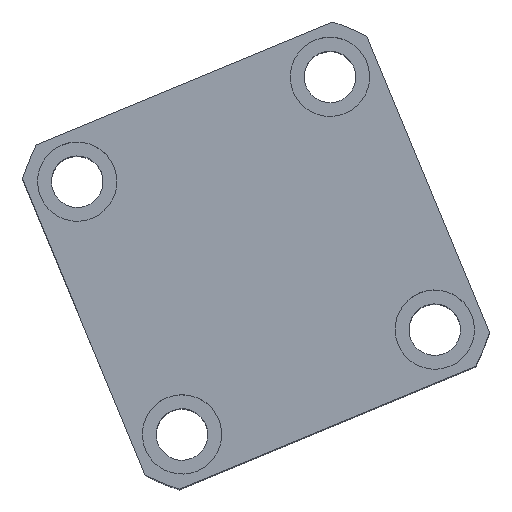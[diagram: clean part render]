
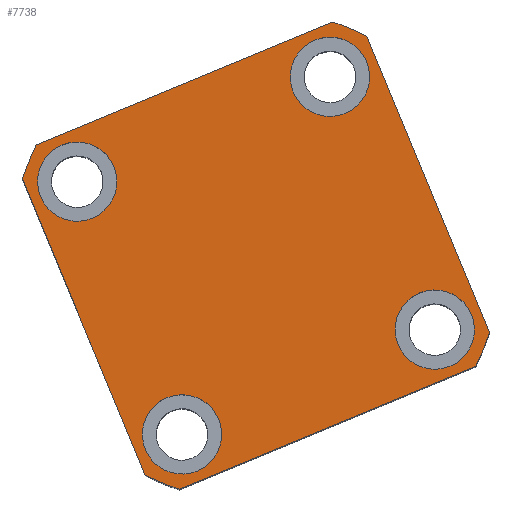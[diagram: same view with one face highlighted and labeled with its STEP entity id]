
A CAD part, top view. The second image highlights one B-rep face of the part: STEP entity #7738.
In plain terms, the highlighted planar face has unit normal (0, 0, 1) as drawn and (0, 0, -1) by its records, which use the part's own axes.
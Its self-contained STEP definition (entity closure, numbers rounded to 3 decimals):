
#434 = DIRECTION ( 'NONE',  ( 0., 0., 1. ) ) ;
#524 = ORIENTED_EDGE ( 'NONE', *, *, #7122, .F. ) ;
#832 = CIRCLE ( 'NONE', #15865, 62. ) ;
#986 = DIRECTION ( 'NONE',  ( 0., -1., 0. ) ) ;
#1189 = LINE ( 'NONE', #17088, #11239 ) ;
#1219 = EDGE_LOOP ( 'NONE', ( #14620, #16579 ) ) ;
#1233 = VECTOR ( 'NONE', #15411, 1000. ) ;
#1245 = CARTESIAN_POINT ( 'NONE',  ( 34.5, 34.5, 0. ) ) ;
#1440 = CIRCLE ( 'NONE', #13545, 10. ) ;
#1504 = EDGE_CURVE ( 'NONE', #8431, #13362, #12765, .T. ) ;
#1578 = ORIENTED_EDGE ( 'NONE', *, *, #1504, .F. ) ;
#1623 = CARTESIAN_POINT ( 'NONE',  ( -34.5, -34.5, 0. ) ) ;
#1679 = CIRCLE ( 'NONE', #10385, 10. ) ;
#1725 = ORIENTED_EDGE ( 'NONE', *, *, #14510, .F. ) ;
#2090 = VERTEX_POINT ( 'NONE', #13240 ) ;
#2092 = DIRECTION ( 'NONE',  ( 0., 0., 1. ) ) ;
#2535 = CARTESIAN_POINT ( 'NONE',  ( 0., 0., 0. ) ) ;
#2625 = DIRECTION ( 'NONE',  ( -1., 0., 0. ) ) ;
#2641 = EDGE_CURVE ( 'NONE', #11904, #3758, #6559, .T. ) ;
#2789 = CARTESIAN_POINT ( 'NONE',  ( 34.5, -34.5, 0. ) ) ;
#2866 = AXIS2_PLACEMENT_3D ( 'NONE', #2535, #12078, #3903 ) ;
#3012 = DIRECTION ( 'NONE',  ( -1., 0., 0. ) ) ;
#3043 = EDGE_CURVE ( 'NONE', #13603, #9117, #1189, .T. ) ;
#3174 = CIRCLE ( 'NONE', #5139, 10. ) ;
#3251 = ORIENTED_EDGE ( 'NONE', *, *, #17462, .F. ) ;
#3468 = CARTESIAN_POINT ( 'NONE',  ( 24.5, -34.5, 0. ) ) ;
#3548 = DIRECTION ( 'NONE',  ( 0., 0., -1. ) ) ;
#3758 = VERTEX_POINT ( 'NONE', #16729 ) ;
#3837 = CARTESIAN_POINT ( 'NONE',  ( 34.5, -34.5, 0. ) ) ;
#3848 = CIRCLE ( 'NONE', #12559, 10. ) ;
#3903 = DIRECTION ( 'NONE',  ( 1., 0., 0. ) ) ;
#4035 = VECTOR ( 'NONE', #986, 1000. ) ;
#4072 = AXIS2_PLACEMENT_3D ( 'NONE', #3837, #13370, #5195 ) ;
#4158 = DIRECTION ( 'NONE',  ( -1., 0., 0. ) ) ;
#4306 = CARTESIAN_POINT ( 'NONE',  ( -34.5, 34.5, 0. ) ) ;
#4397 = VERTEX_POINT ( 'NONE', #15566 ) ;
#4489 = FACE_BOUND ( 'NONE', #10815, .T. ) ;
#4547 = PLANE ( 'NONE',  #14942 ) ;
#4895 = LINE ( 'NONE', #5868, #1233 ) ;
#4914 = FACE_BOUND ( 'NONE', #1219, .T. ) ;
#5033 = EDGE_LOOP ( 'NONE', ( #14883, #8960 ) ) ;
#5060 = EDGE_CURVE ( 'NONE', #13362, #8431, #10558, .T. ) ;
#5109 = VERTEX_POINT ( 'NONE', #14739 ) ;
#5139 = AXIS2_PLACEMENT_3D ( 'NONE', #1245, #10797, #2625 ) ;
#5195 = DIRECTION ( 'NONE',  ( -1., 0., 0. ) ) ;
#5512 = CARTESIAN_POINT ( 'NONE',  ( -34.5, -34.5, 0. ) ) ;
#5673 = DIRECTION ( 'NONE',  ( -1., 0., 0. ) ) ;
#5868 = CARTESIAN_POINT ( 'NONE',  ( 47., 47., 0. ) ) ;
#5927 = DIRECTION ( 'NONE',  ( 1., 0., 0. ) ) ;
#6311 = CARTESIAN_POINT ( 'NONE',  ( -34.5, 34.5, 0. ) ) ;
#6541 = CARTESIAN_POINT ( 'NONE',  ( 0., 0., 0. ) ) ;
#6559 = CIRCLE ( 'NONE', #14722, 10. ) ;
#6682 = DIRECTION ( 'NONE',  ( 0., 0., -1. ) ) ;
#6791 = EDGE_CURVE ( 'NONE', #3758, #11904, #12840, .T. ) ;
#6891 = CARTESIAN_POINT ( 'NONE',  ( 44.5, 34.5, 0. ) ) ;
#6900 = EDGE_CURVE ( 'NONE', #12059, #11554, #8792, .T. ) ;
#6947 = ORIENTED_EDGE ( 'NONE', *, *, #3043, .F. ) ;
#7044 = CARTESIAN_POINT ( 'NONE',  ( 24.5, 34.5, 0. ) ) ;
#7046 = CIRCLE ( 'NONE', #12521, 62. ) ;
#7122 = EDGE_CURVE ( 'NONE', #16179, #11159, #3848, .T. ) ;
#7251 = CARTESIAN_POINT ( 'NONE',  ( 0., 0., 0. ) ) ;
#7609 = EDGE_CURVE ( 'NONE', #11554, #9198, #15797, .T. ) ;
#7632 = DIRECTION ( 'NONE',  ( -1., 0., 0. ) ) ;
#7696 = DIRECTION ( 'NONE',  ( -1., 0., 0. ) ) ;
#7738 = ADVANCED_FACE ( 'NONE', ( #12158, #4914, #15376, #4489, #8109 ), #4547, .F. ) ;
#7895 = CARTESIAN_POINT ( 'NONE',  ( -47., -47., 0. ) ) ;
#7919 = DIRECTION ( 'NONE',  ( 1., 0., 0. ) ) ;
#7984 = AXIS2_PLACEMENT_3D ( 'NONE', #1623, #11175, #3012 ) ;
#8109 = FACE_OUTER_BOUND ( 'NONE', #17689, .T. ) ;
#8272 = CARTESIAN_POINT ( 'NONE',  ( 44.5, -34.5, 0. ) ) ;
#8431 = VERTEX_POINT ( 'NONE', #8272 ) ;
#8563 = VECTOR ( 'NONE', #9266, 1000. ) ;
#8637 = CARTESIAN_POINT ( 'NONE',  ( 0., 0., 0. ) ) ;
#8792 = CIRCLE ( 'NONE', #8917, 62. ) ;
#8856 = CARTESIAN_POINT ( 'NONE',  ( 47., -40.435, 0. ) ) ;
#8917 = AXIS2_PLACEMENT_3D ( 'NONE', #8637, #434, #9994 ) ;
#8960 = ORIENTED_EDGE ( 'NONE', *, *, #12926, .F. ) ;
#9117 = VERTEX_POINT ( 'NONE', #12695 ) ;
#9198 = VERTEX_POINT ( 'NONE', #10238 ) ;
#9266 = DIRECTION ( 'NONE',  ( 1., 0., 0. ) ) ;
#9309 = EDGE_CURVE ( 'NONE', #9117, #16147, #7046, .T. ) ;
#9600 = ORIENTED_EDGE ( 'NONE', *, *, #5060, .F. ) ;
#9994 = DIRECTION ( 'NONE',  ( 1., 0., 0. ) ) ;
#10041 = CIRCLE ( 'NONE', #2866, 62. ) ;
#10238 = CARTESIAN_POINT ( 'NONE',  ( 40.435, -47., 0. ) ) ;
#10272 = CARTESIAN_POINT ( 'NONE',  ( 0., 0., 0. ) ) ;
#10385 = AXIS2_PLACEMENT_3D ( 'NONE', #4306, #13842, #5673 ) ;
#10425 = ORIENTED_EDGE ( 'NONE', *, *, #15672, .F. ) ;
#10456 = ORIENTED_EDGE ( 'NONE', *, *, #6900, .F. ) ;
#10501 = ORIENTED_EDGE ( 'NONE', *, *, #17186, .F. ) ;
#10558 = CIRCLE ( 'NONE', #4072, 10. ) ;
#10797 = DIRECTION ( 'NONE',  ( 0., 0., -1. ) ) ;
#10815 = EDGE_LOOP ( 'NONE', ( #1725, #524 ) ) ;
#11159 = VERTEX_POINT ( 'NONE', #7044 ) ;
#11175 = DIRECTION ( 'NONE',  ( 0., 0., -1. ) ) ;
#11239 = VECTOR ( 'NONE', #7632, 1000. ) ;
#11554 = VERTEX_POINT ( 'NONE', #13226 ) ;
#11640 = DIRECTION ( 'NONE',  ( 1., 0., 0. ) ) ;
#11719 = CARTESIAN_POINT ( 'NONE',  ( 34.5, 34.5, 0. ) ) ;
#11904 = VERTEX_POINT ( 'NONE', #15040 ) ;
#12059 = VERTEX_POINT ( 'NONE', #13983 ) ;
#12078 = DIRECTION ( 'NONE',  ( 0., 0., 1. ) ) ;
#12158 = FACE_BOUND ( 'NONE', #5033, .T. ) ;
#12331 = DIRECTION ( 'NONE',  ( 0., 0., -1. ) ) ;
#12521 = AXIS2_PLACEMENT_3D ( 'NONE', #6541, #16061, #7919 ) ;
#12559 = AXIS2_PLACEMENT_3D ( 'NONE', #11719, #3548, #13088 ) ;
#12695 = CARTESIAN_POINT ( 'NONE',  ( -40.435, 47., 0. ) ) ;
#12765 = CIRCLE ( 'NONE', #14857, 10. ) ;
#12840 = CIRCLE ( 'NONE', #7984, 10. ) ;
#12926 = EDGE_CURVE ( 'NONE', #4397, #5109, #1440, .T. ) ;
#13088 = DIRECTION ( 'NONE',  ( -1., 0., 0. ) ) ;
#13226 = CARTESIAN_POINT ( 'NONE',  ( -40.435, -47., 0. ) ) ;
#13240 = CARTESIAN_POINT ( 'NONE',  ( 47., 40.435, 0. ) ) ;
#13362 = VERTEX_POINT ( 'NONE', #3468 ) ;
#13370 = DIRECTION ( 'NONE',  ( 0., 0., -1. ) ) ;
#13545 = AXIS2_PLACEMENT_3D ( 'NONE', #6311, #15842, #7696 ) ;
#13603 = VERTEX_POINT ( 'NONE', #16123 ) ;
#13842 = DIRECTION ( 'NONE',  ( 0., 0., -1. ) ) ;
#13983 = CARTESIAN_POINT ( 'NONE',  ( -47., -40.435, 0. ) ) ;
#14092 = DIRECTION ( 'NONE',  ( 0., 0., 1. ) ) ;
#14510 = EDGE_CURVE ( 'NONE', #11159, #16179, #3174, .T. ) ;
#14620 = ORIENTED_EDGE ( 'NONE', *, *, #2641, .F. ) ;
#14628 = ORIENTED_EDGE ( 'NONE', *, *, #15984, .F. ) ;
#14722 = AXIS2_PLACEMENT_3D ( 'NONE', #5512, #6682, #16211 ) ;
#14739 = CARTESIAN_POINT ( 'NONE',  ( -44.5, 34.5, 0. ) ) ;
#14857 = AXIS2_PLACEMENT_3D ( 'NONE', #2789, #12331, #4158 ) ;
#14883 = ORIENTED_EDGE ( 'NONE', *, *, #17051, .F. ) ;
#14913 = LINE ( 'NONE', #17329, #4035 ) ;
#14942 = AXIS2_PLACEMENT_3D ( 'NONE', #7251, #14092, #5927 ) ;
#15039 = CARTESIAN_POINT ( 'NONE',  ( -47., 40.435, 0. ) ) ;
#15040 = CARTESIAN_POINT ( 'NONE',  ( -44.5, -34.5, 0. ) ) ;
#15345 = ORIENTED_EDGE ( 'NONE', *, *, #9309, .F. ) ;
#15376 = FACE_BOUND ( 'NONE', #15502, .T. ) ;
#15411 = DIRECTION ( 'NONE',  ( 0., 1., 0. ) ) ;
#15502 = EDGE_LOOP ( 'NONE', ( #9600, #1578 ) ) ;
#15566 = CARTESIAN_POINT ( 'NONE',  ( -24.5, 34.5, 0. ) ) ;
#15672 = EDGE_CURVE ( 'NONE', #16147, #12059, #14913, .T. ) ;
#15797 = LINE ( 'NONE', #7895, #8563 ) ;
#15842 = DIRECTION ( 'NONE',  ( 0., 0., -1. ) ) ;
#15865 = AXIS2_PLACEMENT_3D ( 'NONE', #10272, #2092, #11640 ) ;
#15984 = EDGE_CURVE ( 'NONE', #2090, #13603, #10041, .T. ) ;
#16061 = DIRECTION ( 'NONE',  ( 0., 0., 1. ) ) ;
#16123 = CARTESIAN_POINT ( 'NONE',  ( 40.435, 47., 0. ) ) ;
#16147 = VERTEX_POINT ( 'NONE', #15039 ) ;
#16179 = VERTEX_POINT ( 'NONE', #6891 ) ;
#16211 = DIRECTION ( 'NONE',  ( -1., 0., 0. ) ) ;
#16349 = ORIENTED_EDGE ( 'NONE', *, *, #7609, .F. ) ;
#16579 = ORIENTED_EDGE ( 'NONE', *, *, #6791, .F. ) ;
#16729 = CARTESIAN_POINT ( 'NONE',  ( -24.5, -34.5, 0. ) ) ;
#17051 = EDGE_CURVE ( 'NONE', #5109, #4397, #1679, .T. ) ;
#17088 = CARTESIAN_POINT ( 'NONE',  ( -47., 47., 0. ) ) ;
#17186 = EDGE_CURVE ( 'NONE', #17404, #2090, #4895, .T. ) ;
#17329 = CARTESIAN_POINT ( 'NONE',  ( -47., 47., 0. ) ) ;
#17404 = VERTEX_POINT ( 'NONE', #8856 ) ;
#17462 = EDGE_CURVE ( 'NONE', #9198, #17404, #832, .T. ) ;
#17689 = EDGE_LOOP ( 'NONE', ( #14628, #10501, #3251, #16349, #10456, #10425, #15345, #6947 ) ) ;
